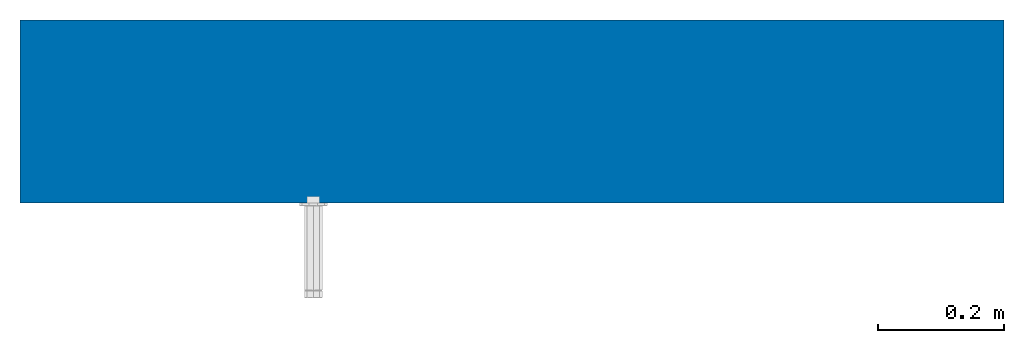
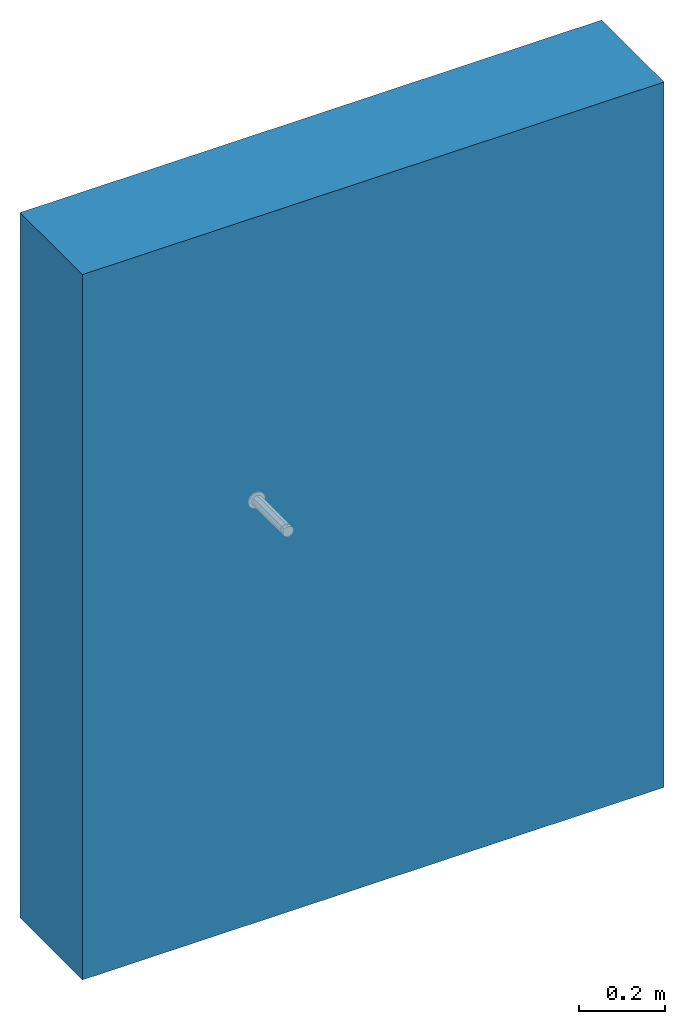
# One storey, incomplete: 1 wall.
"""IFC2X3 building model written with IfcOpenShell, lengths in millimetres."""

import ifcopenshell
import ifcopenshell.guid

model = None  # the IFC model being written
_history = None  # IfcOwnerHistory: only IFC2X3 demands one
_inside = {}  # id of a spatial element -> (the spatial element, [elements in it])
_under = {}  # id of a project, library or spatial element -> (it, [spatial elements below it])
_declared = {}  # id of a project -> (the project, [libraries it declares])
_typed = {}  # id of a type object -> (the type object, [elements of that type])
_made_of = {}  # id of a material, layer set ... -> (it, [elements and type objects made of it])


def new_model(schema):
    """Start an empty IFC model of exactly this schema.

    Asked for "IFC4X3", IfcOpenShell would pick the latest addendum, in which some entities
    have other attributes; the version numbers below select the first issue.
    IFC2X3 requires an IfcOwnerHistory on every rooted entity: one is made here for all.
    """
    global model, _history
    if schema == "IFC4X3":
        model = ifcopenshell.file(schema_version=(4, 3, 0, 0))
    else:
        model = ifcopenshell.file(schema=schema)
    _inside.clear()
    _under.clear()
    _declared.clear()
    _typed.clear()
    _made_of.clear()
    _history = None
    if model.schema == "IFC2X3":
        org = make("IfcOrganization", Name="unknown")
        user = make(
            "IfcPersonAndOrganization",
            ThePerson=make("IfcPerson", FamilyName="unknown"),
            TheOrganization=org,
        )
        app = make(
            "IfcApplication",
            ApplicationDeveloper=org,
            Version="unknown",
            ApplicationFullName="unknown",
            ApplicationIdentifier="unknown",
        )
        _history = make(
            "IfcOwnerHistory",
            OwningUser=user,
            OwningApplication=app,
            ChangeAction="ADDED",
            CreationDate=0,
        )
    return model


def make(cls, **values):
    """One entity of the class cls with the attributes given. An attribute that is None is left unset."""
    return model.create_entity(
        cls, **{name: value for name, value in values.items() if value is not None}
    )


def entity(cls, *values):
    """Any entity or typed value of the class cls, its attributes in the order of the schema. None: left unset."""
    e = model.create_entity(cls)
    for i, value in enumerate(values):
        if value is not None:
            e[i] = value
    return e


def rooted(cls, **values):
    """An entity with a GlobalId (a new one), such as an element, a storey or a relation."""
    return make(cls, GlobalId=ifcopenshell.guid.new(), OwnerHistory=_history, **values)


def si_unit(unit_type, name, prefix=None):
    """IfcSIUnit, for example si_unit("LENGTHUNIT", "METRE", prefix="MILLI")."""
    return make("IfcSIUnit", UnitType=unit_type, Prefix=prefix, Name=name)


def converted_unit(unit_type, name, factor, base, dimensions=None, offset=None):
    """IfcConversionBasedUnit, such as the inch: factor (a typed value) times the base unit."""
    return make(
        "IfcConversionBasedUnit"
        if offset is None
        else "IfcConversionBasedUnitWithOffset",
        ConversionOffset=offset,
        Dimensions=None
        if dimensions is None
        else entity("IfcDimensionalExponents", *dimensions),
        UnitType=unit_type,
        Name=name,
        ConversionFactor=make(
            "IfcMeasureWithUnit", ValueComponent=factor, UnitComponent=base
        ),
    )


def derived_unit(unit_type, elements):
    """IfcDerivedUnit: a product of units, each with its exponent."""
    return make(
        "IfcDerivedUnit",
        Elements=[
            make("IfcDerivedUnitElement", Unit=unit, Exponent=power)
            for unit, power in elements
        ],
        UnitType=unit_type,
    )


def assignment(units):
    """IfcUnitAssignment: the units of a project."""
    return None if units is None else make("IfcUnitAssignment", Units=units)


def point(xyz):
    """IfcCartesianPoint."""
    return None if xyz is None else make("IfcCartesianPoint", Coordinates=xyz)


def direction(xyz):
    """IfcDirection."""
    return None if xyz is None else make("IfcDirection", DirectionRatios=xyz)


def frame(location, z_axis=None, x_axis=None):
    """IfcAxis2Placement3D, a coordinate frame: its origin and axes. An axis left out is left unset."""
    return make(
        "IfcAxis2Placement3D",
        Location=point(location),
        Axis=direction(z_axis),
        RefDirection=direction(x_axis),
    )


def frame_2d(location, x_axis=None):
    """IfcAxis2Placement2D, a coordinate frame in the plane: its origin and x axis."""
    return make(
        "IfcAxis2Placement2D", Location=point(location), RefDirection=direction(x_axis)
    )


def origin():
    """The frame at (0, 0, 0) with its axes left unset."""
    return frame((0.0, 0.0, 0.0))


def place(relative_to, where):
    """IfcLocalPlacement: puts the frame where relative to a parent placement (None: the world)."""
    return make(
        "IfcLocalPlacement", PlacementRelTo=relative_to, RelativePlacement=where
    )


def context(
    kind, dimensions, precision=None, world=None, true_north=None, identifier=None
):
    """IfcGeometricRepresentationContext, for example the 3D "Model" context."""
    return make(
        "IfcGeometricRepresentationContext",
        ContextIdentifier=identifier,
        ContextType=kind,
        CoordinateSpaceDimension=dimensions,
        Precision=precision,
        WorldCoordinateSystem=world,
        TrueNorth=true_north,
    )


def subcontext(parent, identifier, kind, view, scale=None):
    """IfcGeometricRepresentationSubContext, for example "Body" below "Model"."""
    return make(
        "IfcGeometricRepresentationSubContext",
        ContextIdentifier=identifier,
        ContextType=kind,
        ParentContext=parent,
        TargetScale=scale,
        TargetView=view,
    )


def project(units=None, contexts=None):
    """IfcProject with its units and contexts."""
    return rooted(
        "IfcProject",
        Name="project",
        RepresentationContexts=contexts,
        UnitsInContext=assignment(units),
    )


def spatial(cls, under=None, at=None, **own):
    """A site, building, storey or space (cls), placed at a placement, below another one or the project."""
    s = rooted(cls, ObjectPlacement=at, **own)
    if under is not None:
        _under.setdefault(under.id(), (under, []))[1].append(s)
    return s


def profile(cls, at=None, kind="AREA", **sizes):
    """A parametric profile (cls). Its sizes go by their IFC names, for example OverallWidth=200.0."""
    return make(cls, ProfileType=kind, Position=at, **sizes)


def rectangle(**sizes):
    """IfcRectangleProfileDef."""
    return profile("IfcRectangleProfileDef", **sizes)


def extrude(swept, where, along, depth):
    """IfcExtrudedAreaSolid: the profile swept, set in the frame where, extruded along a direction by depth."""
    return make(
        "IfcExtrudedAreaSolid",
        SweptArea=swept,
        Position=where,
        ExtrudedDirection=direction(along),
        Depth=depth,
    )


def shape(context_of_items, identifier, shape_type, items):
    """IfcShapeRepresentation: the items that make up one representation, for example the "Body"."""
    return make(
        "IfcShapeRepresentation",
        ContextOfItems=context_of_items,
        RepresentationIdentifier=identifier,
        RepresentationType=shape_type,
        Items=items,
    )


def material(Name=None, Category=None):
    """IfcMaterial."""
    return make("IfcMaterial", Name=Name, Category=Category)


def layer(
    of_material, thickness, ventilated=None, Name=None, Category=None, Priority=None
):
    """IfcMaterialLayer: one layer of a wall or slab, of a material (None: an air gap)."""
    return make(
        "IfcMaterialLayer",
        Material=of_material,
        LayerThickness=thickness,
        IsVentilated=ventilated,
        Name=Name,
        Category=Category,
        Priority=Priority,
    )


def layer_set(layers, Name=None):
    """IfcMaterialLayerSet."""
    return make("IfcMaterialLayerSet", MaterialLayers=layers, LayerSetName=Name)


def layer_usage(for_layer_set, set_direction, sense, offset, extent=None):
    """IfcMaterialLayerSetUsage: how a layer set lies in its element."""
    return make(
        "IfcMaterialLayerSetUsage",
        ForLayerSet=for_layer_set,
        LayerSetDirection=set_direction,
        DirectionSense=sense,
        OffsetFromReferenceLine=offset,
        ReferenceExtent=extent,
    )


def made_of(thing, what):
    """Note that an element or type object is made of a material, layer set ...; save() writes the relation."""
    if what is not None:
        _made_of.setdefault(what.id(), (what, []))[1].append(thing)
    return thing


def type_object(cls, material=None, **own):
    """A type object (cls), such as IfcWallType, which elements share."""
    return made_of(rooted(cls, **own), material)


def element(
    cls,
    number,
    at=None,
    inside=None,
    cuts=None,
    type_object=None,
    material=None,
    context=None,
    identifier="Body",
    shape_type=None,
    held_by="IfcProductDefinitionShape",
    body=None,
    shapes=None,
    **own,
):
    """One element of the class cls, such as IfcWall. Its Tag is "e" and its number.

    at: its placement. inside: the storey or other place that contains it. cuts: it is an
    opening in that element (IfcRelVoidsElement). A single representation is given by context,
    identifier, shape_type and body (its items); several are given by shapes. held_by: the class
    of the entity that holds the representations. save() writes the other relations.
    """
    e = rooted(cls, Tag="e%d" % number, ObjectPlacement=at, **own)
    if body is not None:
        shapes = [shape(context, identifier, shape_type, body)]
    if shapes is not None:
        e.Representation = make(held_by, Representations=shapes)
    if inside is not None:
        _inside.setdefault(inside.id(), (inside, []))[1].append(e)
    if cuts is not None:
        rooted(
            "IfcRelVoidsElement", RelatingBuildingElement=cuts, RelatedOpeningElement=e
        )
    if type_object is not None:
        _typed.setdefault(type_object.id(), (type_object, []))[1].append(e)
    return made_of(e, material)


def aggregate(whole, parts):
    """IfcRelAggregates: a whole, such as a stair, and the parts it consists of."""
    return rooted("IfcRelAggregates", RelatingObject=whole, RelatedObjects=parts)


def save(model, path):
    """Write the relations noted so far, then the file.

    IfcRelAggregates (storeys below a building ...), IfcRelContainedInSpatialStructure (elements
    in a storey), IfcRelDefinesByType, IfcRelAssociatesMaterial and IfcRelDeclares: one each for
    every whole, place, type object, material and project.
    """
    for whole, parts in _under.values():
        aggregate(whole, parts)
    for where, things in _inside.values():
        rooted(
            "IfcRelContainedInSpatialStructure",
            RelatedElements=things,
            RelatingStructure=where,
        )
    for kind, things in _typed.values():
        rooted("IfcRelDefinesByType", RelatedObjects=things, RelatingType=kind)
    for what, things in _made_of.values():
        rooted("IfcRelAssociatesMaterial", RelatedObjects=things, RelatingMaterial=what)
    for by, libraries in _declared.values():
        rooted("IfcRelDeclares", RelatingContext=by, RelatedDefinitions=libraries)
    model.write(path)


model = new_model("IFC2X3")

# Units and contexts
model_context = context("Model", 3, precision=0.01, world=origin(), true_north=direction((6.12303176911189e-17, 1.0)))
context_of_model = context(None, 3, precision=0.01, world=origin(), true_north=direction((6.12303176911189e-17, 1.0)))
body_context = subcontext(model_context, "Body", "Model", "MODEL_VIEW")
ifc_project = project(units=[si_unit("LENGTHUNIT", "METRE", prefix="MILLI"), si_unit("AREAUNIT", "SQUARE_METRE"), si_unit("VOLUMEUNIT", "CUBIC_METRE"), converted_unit("PLANEANGLEUNIT", "DEGREE", entity("IfcRatioMeasure", 0.0174532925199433), si_unit("PLANEANGLEUNIT", "RADIAN"), dimensions=[0, 0, 0, 0, 0, 0, 0]), si_unit("MASSUNIT", "GRAM", prefix="KILO"), si_unit("TIMEUNIT", "SECOND"), si_unit("FREQUENCYUNIT", "HERTZ"), si_unit("THERMODYNAMICTEMPERATUREUNIT", "DEGREE_CELSIUS"), derived_unit("THERMALTRANSMITTANCEUNIT", [(si_unit("MASSUNIT", "GRAM", prefix="KILO"), 1), (si_unit("THERMODYNAMICTEMPERATUREUNIT", "KELVIN"), -1), (si_unit("TIMEUNIT", "SECOND"), -3)]), derived_unit("VOLUMETRICFLOWRATEUNIT", [(si_unit("LENGTHUNIT", "METRE"), 3), (si_unit("TIMEUNIT", "SECOND"), -1)]), si_unit("ELECTRICCURRENTUNIT", "AMPERE"), si_unit("ELECTRICVOLTAGEUNIT", "VOLT"), si_unit("POWERUNIT", "WATT"), si_unit("FORCEUNIT", "NEWTON", prefix="KILO"), si_unit("ILLUMINANCEUNIT", "LUX"), si_unit("LUMINOUSFLUXUNIT", "LUMEN"), si_unit("LUMINOUSINTENSITYUNIT", "CANDELA"), si_unit("PRESSUREUNIT", "PASCAL")], contexts=[model_context, context_of_model])

# Site, building, storey
site_placement = place(None, origin())
site = spatial("IfcSite", under=ifc_project, at=site_placement, Name="Default", CompositionType="ELEMENT")
building_placement = place(site_placement, origin())
building = spatial("IfcBuilding", under=site, at=building_placement, CompositionType="ELEMENT")
storey_placement = place(building_placement, origin())
storey = spatial("IfcBuildingStorey", under=building, at=storey_placement, Name="Level 0", CompositionType="ELEMENT", Elevation=0.0)

# Wall
ifc_material_1 = material(Name="Brick, Common")
ifc_layer_1 = layer(ifc_material_1, 102.5)
ifc_material_2 = material(Name="Fiberglass Batt")
ifc_layer_2 = layer(ifc_material_2, 75.0)
ifc_material_3 = material(Name="Concrete Masonry Units _Low Density")
ifc_layer_3 = layer(ifc_material_3, 100.0)
ifc_material_4 = material(Name="Plaster")
ifc_layer_4 = layer(ifc_material_4, 12.5)
ifc_layer_set = layer_set([ifc_layer_1, ifc_layer_2, ifc_layer_3, ifc_layer_4], Name="Basic Wall:Wall-Ext_102Bwk-75Ins-100LBlk-12P")
ifc_layer_usage = layer_usage(ifc_layer_set, "AXIS2", "NEGATIVE", 145.0)
wall_type = type_object("IfcWallType", Name="Basic Wall:Wall-Ext_102Bwk-75Ins-100LBlk-12P", PredefinedType="STANDARD", material=ifc_layer_set)
wall_placement = place(storey_placement, frame((-6012.97649646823, 2069.29144388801, 0.0)))
element("IfcWallStandardCase", 1, at=wall_placement, inside=storey, type_object=wall_type, material=ifc_layer_usage, Name="Basic Wall:Wall-Ext_102Bwk-75Ins-100LBlk-12P", ObjectType="Basic Wall:Wall-Ext_102Bwk-75Ins-100LBlk-12P", context=body_context, shape_type="SweptSolid", body=[
    extrude(rectangle(XDim=1560.0, YDim=290.0, at=frame_2d((780.0, -4.2632564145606e-14), x_axis=(-1.0, 0.0))), origin(), (0.0, 0.0, 1.0), 2000.0),
])

save(model, "model.ifc")
